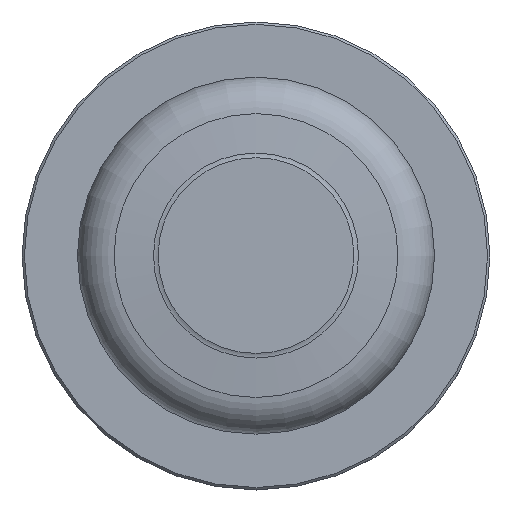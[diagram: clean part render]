
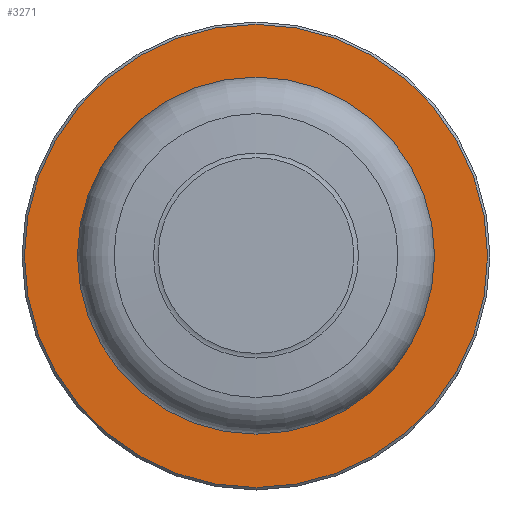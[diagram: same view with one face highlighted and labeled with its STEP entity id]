
A CAD part, top view. The second image highlights one B-rep face of the part: STEP entity #3271.
In plain terms, the highlighted planar face has unit normal (0, 0, 1) as drawn and (0, 1, 0) by its records, which use the part's own axes.
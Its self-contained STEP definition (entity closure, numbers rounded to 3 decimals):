
#2893=FACE_OUTER_BOUND('',#3941,.T.);
#3143=PLANE('',#6229);
#3271=ADVANCED_FACE('AC_MATE2',(#2893),#3143,.F.);
#3941=EDGE_LOOP('',(#4388));
#4388=ORIENTED_EDGE('',*,*,#5544,.T.);
#5212=VERTEX_POINT('',#8072);
#5544=EDGE_CURVE('',#5212,#5212,#5964,.T.);
#5964=CIRCLE('',#6228,24.25);
#6228=AXIS2_PLACEMENT_3D('',#8071,#6822,#6823);
#6229=AXIS2_PLACEMENT_3D('',#8073,#6824,#6825);
#6822=DIRECTION('',(0.,1.,0.));
#6823=DIRECTION('',(1.,0.,0.));
#6824=DIRECTION('',(0.,-1.,0.));
#6825=DIRECTION('',(1.,0.,0.));
#8071=CARTESIAN_POINT('',(0.,14.005,0.));
#8072=CARTESIAN_POINT('',(24.25,14.005,0.));
#8073=CARTESIAN_POINT('',(18.733,14.005,0.));
